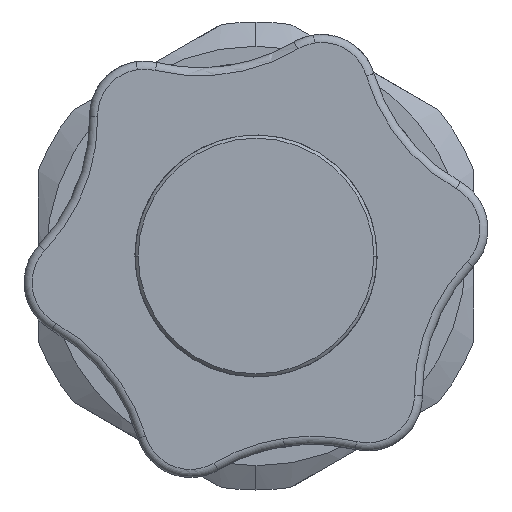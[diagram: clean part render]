
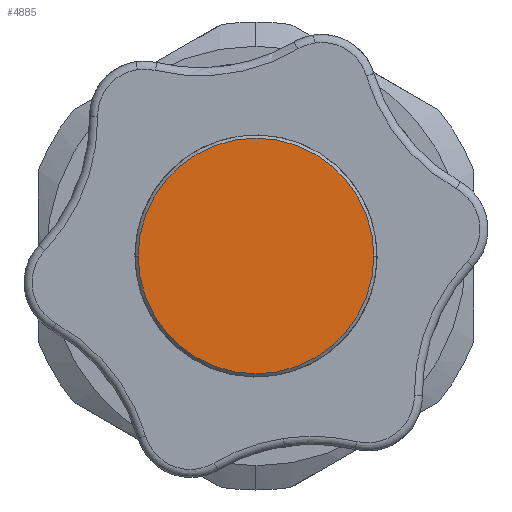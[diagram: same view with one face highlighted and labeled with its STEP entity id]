
A CAD part, left-side view. The second image highlights one B-rep face of the part: STEP entity #4885.
In plain terms, the highlighted planar face has unit normal (-1, 0, 0).
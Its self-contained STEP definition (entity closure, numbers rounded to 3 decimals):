
#1330 = CARTESIAN_POINT ( 'NONE',  ( -48.7, 0., 0. ) ) ;
#1523 = AXIS2_PLACEMENT_3D ( 'NONE', #2202, #5713, #2701 ) ;
#1682 = AXIS2_PLACEMENT_3D ( 'NONE', #1330, #4841, #1833 ) ;
#1833 = DIRECTION ( 'NONE',  ( 0., 1., 0. ) ) ;
#2202 = CARTESIAN_POINT ( 'NONE',  ( -48.7, 0., 0. ) ) ;
#2475 = FACE_OUTER_BOUND ( 'NONE', #4434, .T. ) ;
#2494 = ORIENTED_EDGE ( 'NONE', *, *, #5042, .F. ) ;
#2583 = CARTESIAN_POINT ( 'NONE',  ( -48.7, 0., 0. ) ) ;
#2667 = CARTESIAN_POINT ( 'NONE',  ( -48.7, -7.3, 0. ) ) ;
#2701 = DIRECTION ( 'NONE',  ( 0., -1., 0. ) ) ;
#3082 = DIRECTION ( 'NONE',  ( 0., -1., 0. ) ) ;
#3655 = AXIS2_PLACEMENT_3D ( 'NONE', #2583, #6105, #3082 ) ;
#3678 = VERTEX_POINT ( 'NONE', #2667 ) ;
#4050 = VERTEX_POINT ( 'NONE', #6449 ) ;
#4434 = EDGE_LOOP ( 'NONE', ( #2494, #5923 ) ) ;
#4841 = DIRECTION ( 'NONE',  ( -1., 0., 0. ) ) ;
#4885 = ADVANCED_FACE ( 'NONE', ( #2475 ), #5316, .T. ) ;
#4951 = EDGE_CURVE ( 'NONE', #4050, #3678, #6329, .T. ) ;
#5042 = EDGE_CURVE ( 'NONE', #3678, #4050, #5072, .T. ) ;
#5072 = CIRCLE ( 'NONE', #1523, 7.3 ) ;
#5316 = PLANE ( 'NONE',  #1682 ) ;
#5713 = DIRECTION ( 'NONE',  ( 1., 0., 0. ) ) ;
#5923 = ORIENTED_EDGE ( 'NONE', *, *, #4951, .F. ) ;
#6105 = DIRECTION ( 'NONE',  ( 1., 0., 0. ) ) ;
#6329 = CIRCLE ( 'NONE', #3655, 7.3 ) ;
#6449 = CARTESIAN_POINT ( 'NONE',  ( -48.7, 7.3, 0. ) ) ;
